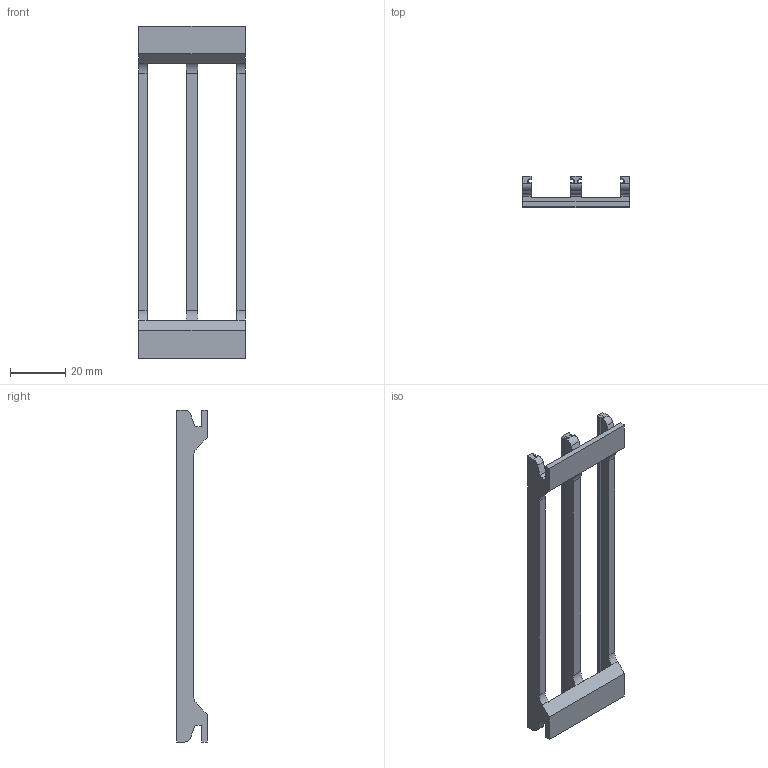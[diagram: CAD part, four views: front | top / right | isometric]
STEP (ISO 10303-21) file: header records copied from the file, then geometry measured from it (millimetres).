
FILE_DESCRIPTION(/* description */ (''),/* implementation_level */ '2;1');
FILE_NAME(/* name */ 'C:/Users/Ben/Downloads/3d-prints/printing/missing/LumenPNPClipFeederPCBHolder/FeederTrays/16mmClipFeeder.step',/* time_stamp */ '2022-03-30T18:24:31-04:00',/* author */ (''),/* organization */ (''),/* preprocessor_version */ 'ST-DEVELOPER v18.1',/* originating_system */ 'Autodesk Translation Framework v10.10.0.1391',/* authorisation */ '');
FILE_SCHEMA (('AUTOMOTIVE_DESIGN { 1 0 10303 214 3 1 1 }'));
Length unit declared in the file: millimetre
Products named in the file (1): ClipPCBTrays
Bounding box: 38.5 x 11 x 120 mm (x, y, z)
Volume: 9391.2 mm3; surface area: 10036.3 mm2
Topology: 1 solids, 1 shells, 116 faces, 322 edges, 204 vertices
Faces by surface type: plane 98, cylinder 18
Entity records: 3667 total; most frequent: ORIENTED_EDGE 644, CARTESIAN_POINT 643, DIRECTION 592, EDGE_CURVE 322, LINE 286, VECTOR 286, VERTEX_POINT 204, AXIS2_PLACEMENT_3D 153
